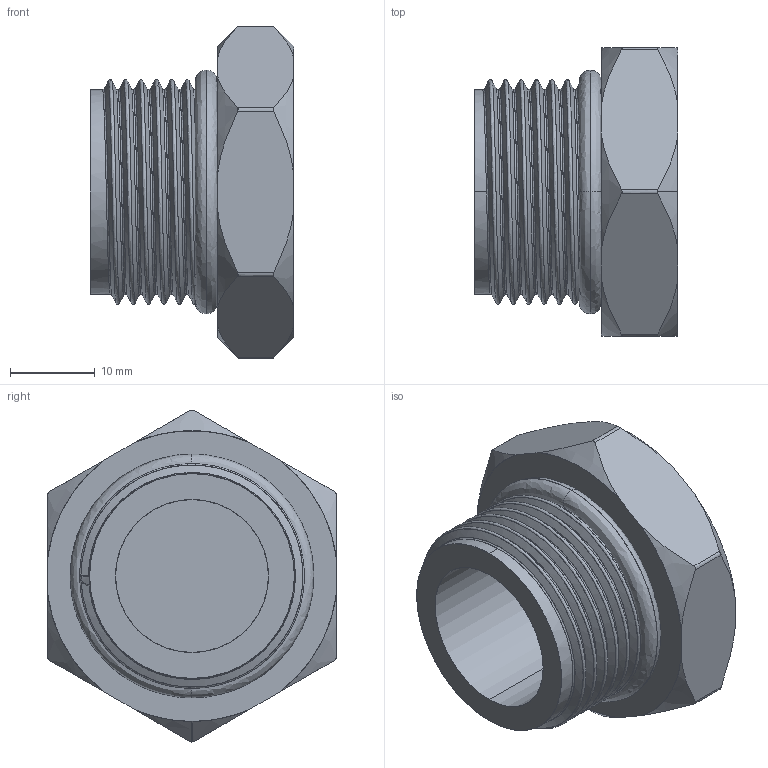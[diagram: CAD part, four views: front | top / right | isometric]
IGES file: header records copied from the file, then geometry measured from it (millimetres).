
Start section: SolidWorks IGES file using analytic representation for surfaces
Global section: file name: C:\Users\federicoz\Desktop\files\00200_0505.IGS; native system: SolidWorks 2011; preprocessor: SolidWorks 2011; author: federicoz; date: 200513.151448; units: millimetre
Bounding box: 24 x 34 x 39.11 mm (x, y, z)
Surface area: 6335.6 mm2 (no closed solid volume)
Topology: 0 solids, 0 shells, 75 faces, 1318 edges, 1315 vertices
Faces by surface type: revolution 40, bspline 35
